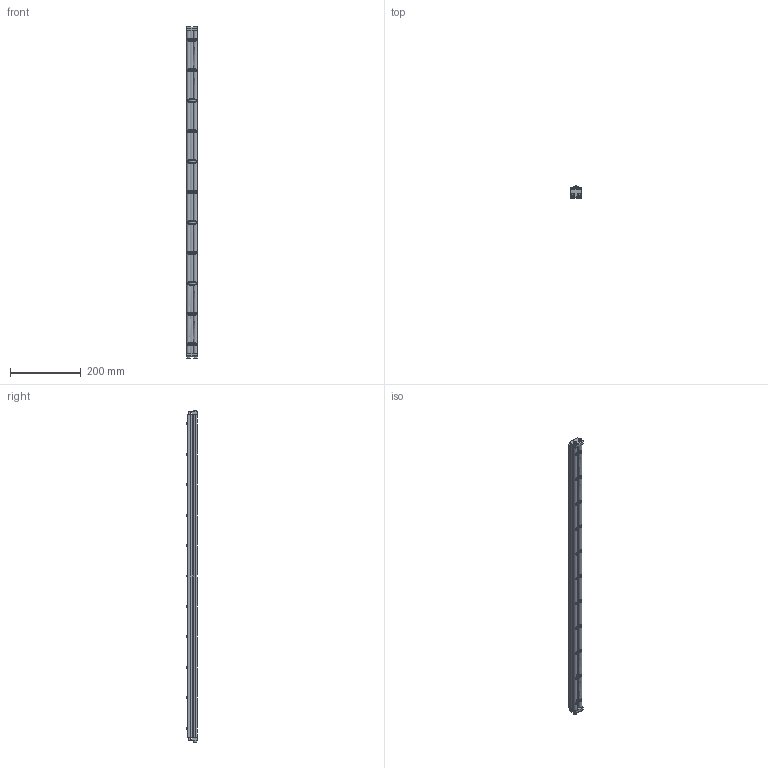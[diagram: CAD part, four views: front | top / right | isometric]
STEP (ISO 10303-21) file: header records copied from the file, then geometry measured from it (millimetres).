
FILE_DESCRIPTION((''),'2;1');
FILE_NAME('324936_ASM','2023-03-14T',('jenni.wallner'),(''),'PRO/ENGINEER BY PARAMETRIC TECHNOLOGY CORPORATION, 2012420','PRO/ENGINEER BY PARAMETRIC TECHNOLOGY CORPORATION, 2012420','');
FILE_SCHEMA(('CONFIG_CONTROL_DESIGN'));
Length unit declared in the file: inch
Products named in the file (7): 240826; 240827_CAE; X920693M; 2436WW_243636; 2410WW_CAE_241036; ASM0001_ASM; 324936_ASM
Assembly tree (20 placements, depth 3):
  324936_ASM
    ASM0001_ASM
      240826  x11
      240827_CAE  x2
      X920693M  x4
      2436WW_243636
      2410WW_CAE_241036
Bounding box: 30.88 x 33.34 x 941.81 mm (x, y, z)
Volume: 448168.6 mm3; surface area: 265842.9 mm2
Topology: 19 solids, 19 shells, 671 faces, 1904 edges, 1257 vertices
Faces by surface type: cylinder 307, plane 228, cone 92, torus 44
Entity records: 16423 total; most frequent: CARTESIAN_POINT 4390, ORIENTED_EDGE 2664, DIRECTION 2427, EDGE_CURVE 1332, AXIS2_PLACEMENT_3D 904, VERTEX_POINT 889, VECTOR 619, LINE 619
